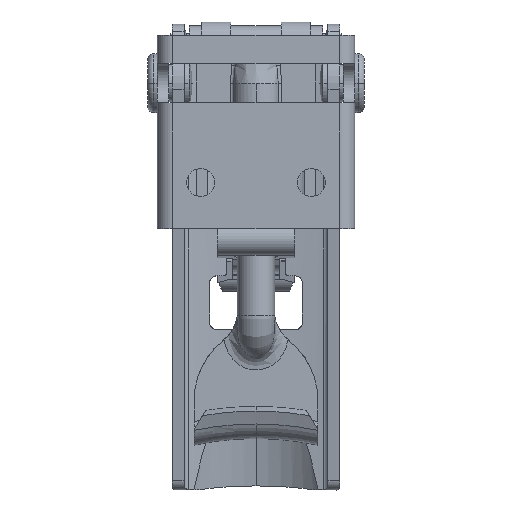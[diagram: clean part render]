
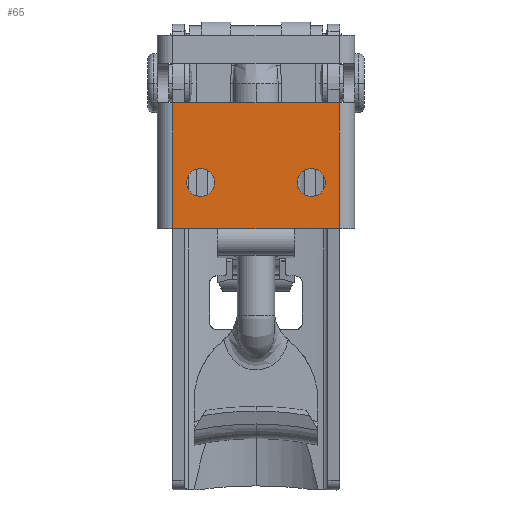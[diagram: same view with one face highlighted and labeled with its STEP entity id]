
A CAD part, front view. The second image highlights one B-rep face of the part: STEP entity #65.
In plain terms, the highlighted planar face has unit normal (0, -1, 0).
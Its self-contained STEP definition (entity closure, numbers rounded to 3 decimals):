
#19 = ORIENTED_EDGE ( 'NONE', *, *, #16979, .T. ) ;
#59 = EDGE_LOOP ( 'NONE', ( #19, #127 ) ) ;
#65 = ADVANCED_FACE ( 'NONE', ( #10117, #10116, #10115 ), #10114, .T. ) ;
#127 = ORIENTED_EDGE ( 'NONE', *, *, #6998, .T. ) ;
#140 = EDGE_LOOP ( 'NONE', ( #6107, #6150 ) ) ;
#5322 = DIRECTION ( 'NONE',  ( 0., 0., 1. ) ) ;
#5323 = DIRECTION ( 'NONE',  ( 0., 1., 0. ) ) ;
#5324 = CARTESIAN_POINT ( 'NONE',  ( 7.15, 0., -19.05 ) ) ;
#5325 = AXIS2_PLACEMENT_3D ( 'NONE', #5324, #5323, #5322 ) ;
#5330 = CIRCLE ( 'NONE', #5325, 1.8 ) ;
#5333 = DIRECTION ( 'NONE',  ( 0., 0., 1. ) ) ;
#5334 = DIRECTION ( 'NONE',  ( 0., 1., 0. ) ) ;
#5335 = CARTESIAN_POINT ( 'NONE',  ( -7.15, 0., -19.05 ) ) ;
#5336 = AXIS2_PLACEMENT_3D ( 'NONE', #5335, #5334, #5333 ) ;
#5337 = CIRCLE ( 'NONE', #5336, 1.8 ) ;
#5678 = ORIENTED_EDGE ( 'NONE', *, *, #5679, .T. ) ;
#5679 = EDGE_CURVE ( 'NONE', #5684, #6279, #11210, .T. ) ;
#5682 = ORIENTED_EDGE ( 'NONE', *, *, #5683, .F. ) ;
#5683 = EDGE_CURVE ( 'NONE', #5684, #6277, #11206, .T. ) ;
#5684 = VERTEX_POINT ( 'NONE', #11202 ) ;
#6107 = ORIENTED_EDGE ( 'NONE', *, *, #16983, .T. ) ;
#6150 = ORIENTED_EDGE ( 'NONE', *, *, #7059, .T. ) ;
#6171 = EDGE_LOOP ( 'NONE', ( #6283, #6282, #5682, #5678 ) ) ;
#6277 = VERTEX_POINT ( 'NONE', #12295 ) ;
#6278 = EDGE_CURVE ( 'NONE', #6277, #6281, #12294, .T. ) ;
#6279 = VERTEX_POINT ( 'NONE', #12272 ) ;
#6280 = EDGE_CURVE ( 'NONE', #6279, #6281, #12271, .T. ) ;
#6281 = VERTEX_POINT ( 'NONE', #12267 ) ;
#6282 = ORIENTED_EDGE ( 'NONE', *, *, #6278, .F. ) ;
#6283 = ORIENTED_EDGE ( 'NONE', *, *, #6280, .T. ) ;
#6978 = VERTEX_POINT ( 'NONE', #13901 ) ;
#6979 = VERTEX_POINT ( 'NONE', #13900 ) ;
#6998 = EDGE_CURVE ( 'NONE', #7085, #6999, #13933, .T. ) ;
#6999 = VERTEX_POINT ( 'NONE', #13928 ) ;
#7059 = EDGE_CURVE ( 'NONE', #6978, #6979, #14052, .T. ) ;
#7085 = VERTEX_POINT ( 'NONE', #14125 ) ;
#10110 = DIRECTION ( 'NONE',  ( 0., 0., -1. ) ) ;
#10111 = DIRECTION ( 'NONE',  ( 0., -1., 0. ) ) ;
#10112 = CARTESIAN_POINT ( 'NONE',  ( -12.75, 0., -25. ) ) ;
#10113 = AXIS2_PLACEMENT_3D ( 'NONE', #10112, #10111, #10110 ) ;
#10114 = PLANE ( 'NONE',  #10113 ) ;
#10115 = FACE_OUTER_BOUND ( 'NONE', #6171, .T. ) ;
#10116 = FACE_BOUND ( 'NONE', #140, .T. ) ;
#10117 = FACE_BOUND ( 'NONE', #59, .T. ) ;
#11202 = CARTESIAN_POINT ( 'NONE',  ( -10.75, 0., -25. ) ) ;
#11203 = DIRECTION ( 'NONE',  ( 0., 0., 1. ) ) ;
#11204 = VECTOR ( 'NONE', #11203, 1000. ) ;
#11205 = CARTESIAN_POINT ( 'NONE',  ( -10.75, 0., -25. ) ) ;
#11206 = LINE ( 'NONE', #11205, #11204 ) ;
#11207 = DIRECTION ( 'NONE',  ( 1., 0., 0. ) ) ;
#11208 = VECTOR ( 'NONE', #11207, 1000. ) ;
#11209 = CARTESIAN_POINT ( 'NONE',  ( -12.75, 0., -25. ) ) ;
#11210 = LINE ( 'NONE', #11209, #11208 ) ;
#12267 = CARTESIAN_POINT ( 'NONE',  ( 10.75, 0., -8.75 ) ) ;
#12268 = DIRECTION ( 'NONE',  ( 0., 0., 1. ) ) ;
#12269 = VECTOR ( 'NONE', #12268, 1000. ) ;
#12270 = CARTESIAN_POINT ( 'NONE',  ( 10.75, 0., -25. ) ) ;
#12271 = LINE ( 'NONE', #12270, #12269 ) ;
#12272 = CARTESIAN_POINT ( 'NONE',  ( 10.75, 0., -25. ) ) ;
#12273 = VECTOR ( 'NONE', #12292, 1000. ) ;
#12292 = DIRECTION ( 'NONE',  ( 1., 0., 0. ) ) ;
#12293 = CARTESIAN_POINT ( 'NONE',  ( -12.75, 0., -8.75 ) ) ;
#12294 = LINE ( 'NONE', #12293, #12273 ) ;
#12295 = CARTESIAN_POINT ( 'NONE',  ( -10.75, 0., -8.75 ) ) ;
#13900 = CARTESIAN_POINT ( 'NONE',  ( 7.15, 0., -17.25 ) ) ;
#13901 = CARTESIAN_POINT ( 'NONE',  ( 7.15, 0., -20.85 ) ) ;
#13928 = CARTESIAN_POINT ( 'NONE',  ( -7.15, 0., -17.25 ) ) ;
#13929 = DIRECTION ( 'NONE',  ( 0., 0., 1. ) ) ;
#13930 = DIRECTION ( 'NONE',  ( 0., 1., 0. ) ) ;
#13931 = CARTESIAN_POINT ( 'NONE',  ( -7.15, 0., -19.05 ) ) ;
#13932 = AXIS2_PLACEMENT_3D ( 'NONE', #13931, #13930, #13929 ) ;
#13933 = CIRCLE ( 'NONE', #13932, 1.8 ) ;
#14050 = CARTESIAN_POINT ( 'NONE',  ( 7.15, 0., -19.05 ) ) ;
#14051 = AXIS2_PLACEMENT_3D ( 'NONE', #14050, #14116, #14115 ) ;
#14052 = CIRCLE ( 'NONE', #14051, 1.8 ) ;
#14115 = DIRECTION ( 'NONE',  ( 0., 0., 1. ) ) ;
#14116 = DIRECTION ( 'NONE',  ( 0., 1., 0. ) ) ;
#14125 = CARTESIAN_POINT ( 'NONE',  ( -7.15, 0., -20.85 ) ) ;
#16979 = EDGE_CURVE ( 'NONE', #6999, #7085, #5337, .T. ) ;
#16983 = EDGE_CURVE ( 'NONE', #6979, #6978, #5330, .T. ) ;
